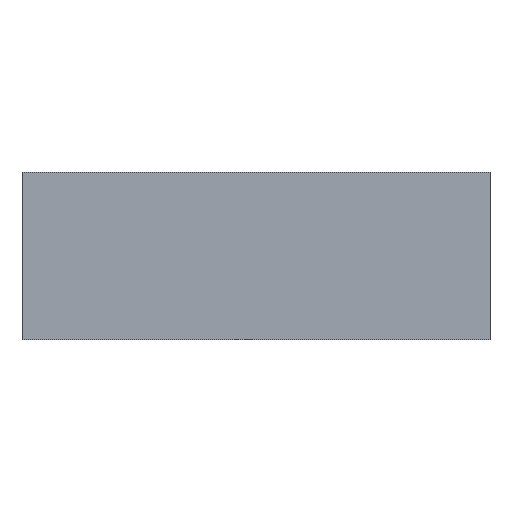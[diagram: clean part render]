
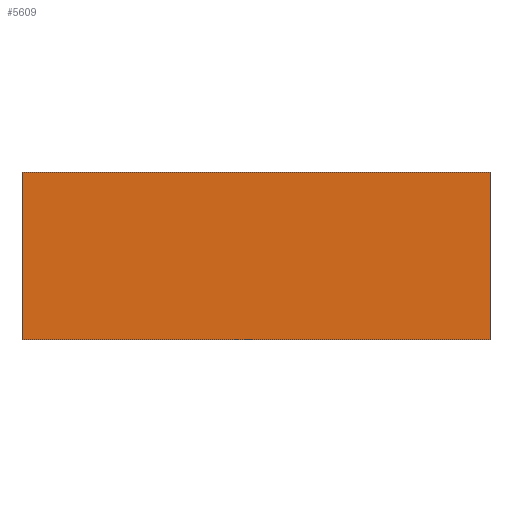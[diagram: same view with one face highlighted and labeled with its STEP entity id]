
A CAD part, front view. The second image highlights one B-rep face of the part: STEP entity #5609.
In plain terms, the highlighted planar face has unit normal (0, -1, 0).
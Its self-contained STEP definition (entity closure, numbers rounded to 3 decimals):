
#312 = CARTESIAN_POINT ( 'NONE',  ( -210., 0., 150. ) ) ;
#461 = LINE ( 'NONE', #462, #463 ) ;
#462 = CARTESIAN_POINT ( 'NONE',  ( -210., 0., 150. ) ) ;
#463 = VECTOR ( 'NONE', #464, 1000. ) ;
#464 = DIRECTION ( 'NONE',  ( 0., 0., -1. ) ) ;
#984 = CARTESIAN_POINT ( 'NONE',  ( -210., 0., 0. ) ) ;
#3310 = ORIENTED_EDGE ( 'NONE', *, *, #5929, .T. ) ;
#5448 = EDGE_CURVE ( 'NONE', #5898, #5593, #7428, .T. ) ;
#5452 = ORIENTED_EDGE ( 'NONE', *, *, #5810, .T. ) ;
#5506 = ORIENTED_EDGE ( 'NONE', *, *, #5448, .F. ) ;
#5562 = EDGE_LOOP ( 'NONE', ( #5452, #5696, #5506, #3310 ) ) ;
#5593 = VERTEX_POINT ( 'NONE', #8004 ) ;
#5609 = ADVANCED_FACE ( 'NONE', ( #8059 ), #8060, .F. ) ;
#5640 = EDGE_CURVE ( 'NONE', #5593, #5785, #8193, .T. ) ;
#5696 = ORIENTED_EDGE ( 'NONE', *, *, #5640, .F. ) ;
#5785 = VERTEX_POINT ( 'NONE', #8702 ) ;
#5810 = EDGE_CURVE ( 'NONE', #6824, #5785, #8832, .T. ) ;
#5898 = VERTEX_POINT ( 'NONE', #312 ) ;
#5929 = EDGE_CURVE ( 'NONE', #5898, #6824, #461, .T. ) ;
#6824 = VERTEX_POINT ( 'NONE', #984 ) ;
#7428 = LINE ( 'NONE', #7429, #7430 ) ;
#7429 = CARTESIAN_POINT ( 'NONE',  ( 210., 0., 150. ) ) ;
#7430 = VECTOR ( 'NONE', #7435, 1000. ) ;
#7435 = DIRECTION ( 'NONE',  ( 1., 0., 0. ) ) ;
#8004 = CARTESIAN_POINT ( 'NONE',  ( 210., 0., 150. ) ) ;
#8059 = FACE_OUTER_BOUND ( 'NONE', #5562, .T. ) ;
#8060 = PLANE ( 'NONE',  #8061 ) ;
#8061 = AXIS2_PLACEMENT_3D ( 'NONE', #8062, #8063, #8064 ) ;
#8062 = CARTESIAN_POINT ( 'NONE',  ( 210., 0., 150. ) ) ;
#8063 = DIRECTION ( 'NONE',  ( 0., 1., 0. ) ) ;
#8064 = DIRECTION ( 'NONE',  ( 0., 0., 1. ) ) ;
#8193 = LINE ( 'NONE', #8194, #8195 ) ;
#8194 = CARTESIAN_POINT ( 'NONE',  ( 210., 0., 150. ) ) ;
#8195 = VECTOR ( 'NONE', #8196, 1000. ) ;
#8196 = DIRECTION ( 'NONE',  ( 0., 0., -1. ) ) ;
#8702 = CARTESIAN_POINT ( 'NONE',  ( 210., 0., 0. ) ) ;
#8832 = LINE ( 'NONE', #8833, #8838 ) ;
#8833 = CARTESIAN_POINT ( 'NONE',  ( 210., 0., 0. ) ) ;
#8838 = VECTOR ( 'NONE', #8839, 1000. ) ;
#8839 = DIRECTION ( 'NONE',  ( 1., 0., 0. ) ) ;
